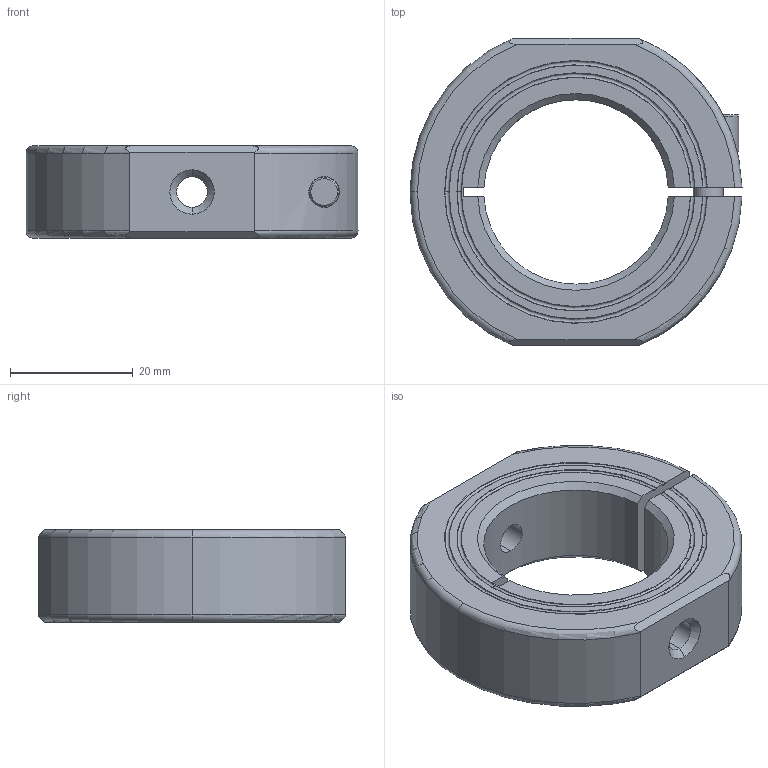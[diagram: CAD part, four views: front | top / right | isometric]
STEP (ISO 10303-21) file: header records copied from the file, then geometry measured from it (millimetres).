
FILE_DESCRIPTION (( 'STEP AP214' ), '1' );
FILE_NAME ('Ruland_OF-MCL-30-F.step', '2018-02-08T04:12:07', ( '' ), ( '' ), 'SwSTEP 2.0', 'SolidWorks 2018', '' );
FILE_SCHEMA (( 'AUTOMOTIVE_DESIGN' ));
Length unit declared in the file: millimetre
Products named in the file (3): Ruland_OF-MCL-30-F; Metric Socket Head Cap Screws 1_CFM6_18.step; OX-MCL-XX-XX-C_OF-MCL-30-F-C.step
Assembly tree (2 placements, depth 2):
  Ruland_OF-MCL-30-F
    OX-MCL-XX-XX-C_OF-MCL-30-F-C.step
    Metric Socket Head Cap Screws 1_CFM6_18.step
Bounding box: 53.99 x 50 x 15 mm (x, y, z)
Volume: 21322.8 mm3; surface area: 8467.2 mm2
Topology: 2 solids, 2 shells, 77 faces, 198 edges, 128 vertices
Faces by surface type: plane 26, cylinder 21, cone 18, torus 12
Entity records: 3356 total; most frequent: CARTESIAN_POINT 1323, ORIENTED_EDGE 396, DIRECTION 384, EDGE_CURVE 198, AXIS2_PLACEMENT_3D 153, VERTEX_POINT 128, EDGE_LOOP 88, VECTOR 78
